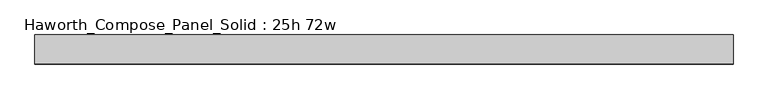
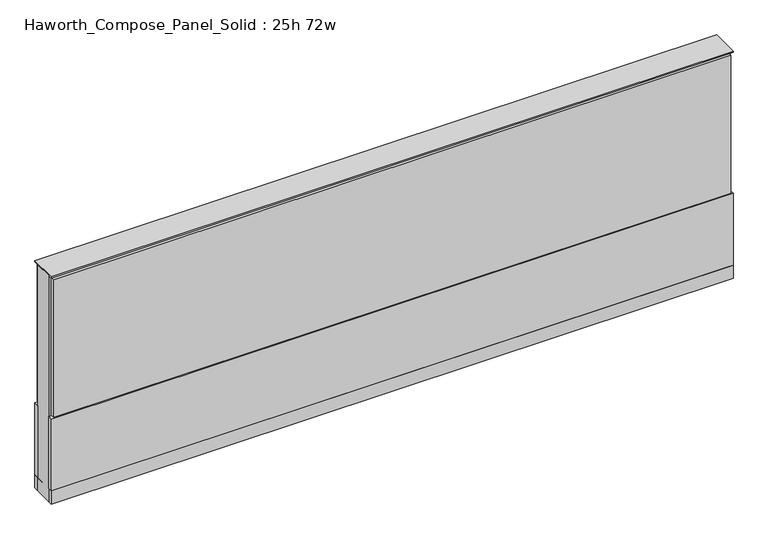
"""IFC4 building model written with IfcOpenShell, lengths in millimetres: furniture geometry, Haworth_Compose_Panel_Solid : 25h 72w."""

from ifc_helpers import new_model, si_unit, point, frame, frame_2d, origin, origin_with_axes, place, context, project, spatial, polyline, circle_curve, trimmed, segment, composite_curve, outline, extrude, source, transform, mapped, element, save


def haworth_compose_panel_solid_25h_72w_62773ed1(model_context):
    return source(origin(), model_context, "Body", "SweptSolid", [
        extrude(outline(composite_curve([segment(trimmed(circle_curve(frame_2d((-835.7597098, 0.0)), 12.7), [point((-848.4597098, 0.0))], [point((-823.0597098, 0.0))], False, "CARTESIAN"), True, "CONTINUOUS"), segment(trimmed(circle_curve(frame_2d((-835.7597098, 0.0)), 12.7), [point((-823.0597098, 0.0))], [point((-848.4597098, 0.0))], False, "CARTESIAN"), True, "CONTINUOUS")], self_intersect=False)), origin_with_axes(), (0.0, 0.0, 1.0), 12.7),
        extrude(outline(composite_curve([segment(trimmed(circle_curve(frame_2d((840.6402902, 0.0)), 12.7), [point((827.9402902, 0.0))], [point((853.3402902, 0.0))], False, "CARTESIAN"), True, "CONTINUOUS"), segment(trimmed(circle_curve(frame_2d((840.6402902, 0.0)), 12.7), [point((853.3402902, 0.0))], [point((827.9402902, 0.0))], False, "CARTESIAN"), True, "CONTINUOUS")], self_intersect=False)), origin_with_axes(), (0.0, 0.0, 1.0), 12.7),
        extrude(outline(polyline([(910.4902902, -38.1), (-905.6097098, -38.1), (-905.6097098, -25.4), (910.4902902, -25.4), (910.4902902, -38.1)])), frame((0.0, 0.0, 257.175), z_axis=(0.0, 0.0, 1.0), x_axis=(1.0, 0.0, 0.0)), (0.0, 0.0, 1.0), 390.525),
        extrude(outline(polyline([(916.8402902, -38.1), (-911.9597098, -38.1), (-911.9597098, -25.4), (916.8402902, -25.4), (916.8402902, -38.1)])), frame((0.0, 0.0, 50.8), z_axis=(0.0, 0.0, 1.0), x_axis=(1.0, 0.0, 0.0)), (0.0, 0.0, 1.0), 203.2),
        extrude(outline(polyline([(916.8402902, 38.1), (916.8402902, 25.4), (-911.9597098, 25.4), (-911.9597098, 38.1), (916.8402902, 38.1)])), frame((0.0, 0.0, 50.8), z_axis=(0.0, 0.0, 1.0), x_axis=(1.0, 0.0, 0.0)), (0.0, 0.0, 1.0), 203.2),
        extrude(outline(polyline([(910.4902902, 38.1), (910.4902902, 25.4), (-905.6097098, 25.4), (-905.6097098, 38.1), (910.4902902, 38.1)])), frame((0.0, 0.0, 257.175), z_axis=(0.0, 0.0, 1.0), x_axis=(1.0, 0.0, 0.0)), (0.0, 0.0, 1.0), 390.525),
        extrude(outline(polyline([(916.8402902, -25.4), (-911.9597098, -25.4), (-911.9597098, 25.4), (916.8402902, 25.4), (916.8402902, -25.4)])), frame((0.0, 0.0, 12.7), z_axis=(0.0, 0.0, 1.0), x_axis=(1.0, 0.0, 0.0)), (0.0, 0.0, 1.0), 641.35),
        extrude(outline(polyline([(-911.9597098, 38.1), (916.8402902, 38.1), (916.8402902, -38.1), (-911.9597098, -38.1), (-911.9597098, 38.1)])), frame((0.0, 0.0, 12.7), z_axis=(0.0, 0.0, 1.0), x_axis=(1.0, 0.0, 0.0)), (0.0, 0.0, 1.0), 38.1),
        extrude(outline(polyline([(-911.9597098, 38.1), (916.8402902, 38.1), (916.8402902, -38.1), (-911.9597098, -38.1), (-911.9597098, 38.1)])), frame((0.0, 0.0, 654.05), z_axis=(0.0, 0.0, 1.0), x_axis=(1.0, 0.0, 0.0)), (0.0, 0.0, 1.0), 3.175),
    ])


if __name__ == "__main__":
    model = new_model("IFC4")
    model_context = context("Model", 3, world=origin())
    ifc_project = project(units=[si_unit("LENGTHUNIT", "METRE", prefix="MILLI")], contexts=[model_context])
    site = spatial("IfcSite", under=ifc_project)
    building = spatial("IfcBuilding", under=site)
    placement = place(None, origin())
    haworth_compose_panel_solid_25h_72w_shape = haworth_compose_panel_solid_25h_72w_62773ed1(model_context)
    element("IfcFurniture", 1, ObjectType="Haworth_Compose_Panel_Solid : 25h 72w", at=placement, inside=building, context=model_context, shape_type="MappedRepresentation", body=[
        mapped(haworth_compose_panel_solid_25h_72w_shape, transform((0.0, 0.0, 0.0), x_axis=(1.0, 0.0, 0.0), y_axis=(0.0, 1.0, 0.0), z_axis=(0.0, 0.0, 1.0))),
    ])
    save(model, "model.ifc")
